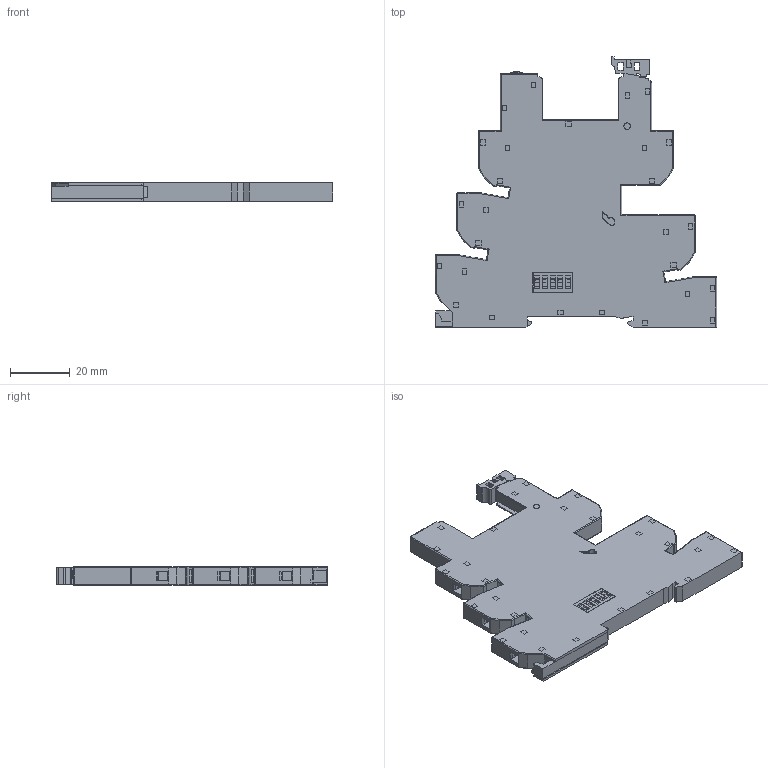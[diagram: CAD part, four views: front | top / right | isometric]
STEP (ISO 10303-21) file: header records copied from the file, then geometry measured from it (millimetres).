
FILE_DESCRIPTION(('STEP AP214'),'2;1');
FILE_NAME('93.68---skin.stp','2010-04-14T14:59:26',(''),(''),'2007.1.106','THINKDESIGN','');
FILE_SCHEMA(('AUTOMOTIVE_DESIGN'));
Products named in the file (1): None
Bounding box: 94.25 x 90.7 x 6.2 mm (x, y, z)
Surface area: 17017.8 mm2 (no closed solid volume)
Topology: 0 solids, 0 shells, 1081 faces, 6322 edges, 6307 vertices
Faces by surface type: plane 899, cylinder 165, bspline 17
Full cylindrical faces by diameter (mm): 1.5 x6, 2.2 x2, 2.798 x6, 3.9 x6, 4.299 x6
Entity records: 62008 total; most frequent: CARTESIAN_POINT 15376, DIRECTION 8325, COMPOSITE_CURVE_SEGMENT 6307, TRIMMED_CURVE 5911, VECTOR 5625, LINE 5625, AXIS2_PLACEMENT_3D 1350, OUTER_BOUNDARY_CURVE 1081
